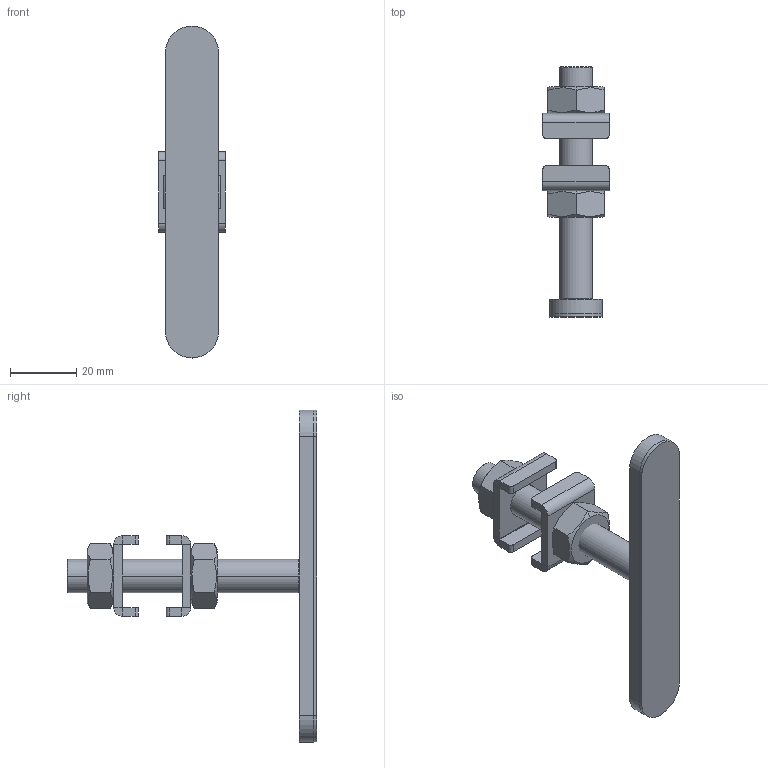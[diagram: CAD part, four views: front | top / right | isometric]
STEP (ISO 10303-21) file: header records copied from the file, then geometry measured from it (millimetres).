
FILE_DESCRIPTION (( 'STEP AP203' ), '1' );
FILE_NAME ('PFA-M10.STEP', '2011-05-24T13:37:54', ( 'Usuario' ), ( '' ), 'SwSTEP 2.0', 'SolidWorks 2011', '' );
FILE_SCHEMA (( 'CONFIG_CONTROL_DESIGN' ));
Length unit declared in the file: millimetre
Products named in the file (6): 20.20019; 20.20021; 20.20020; PFA-M10; 14.10003; 11.50003
Assembly tree (7 placements, depth 2):
  PFA-M10
    20.20021
    14.10003  x2
    11.50003  x2
    20.20020
    20.20019
Bounding box: 20 x 75.25 x 100 mm (x, y, z)
Volume: 19644.6 mm3; surface area: 14694.1 mm2
Topology: 7 solids, 7 shells, 112 faces, 250 edges, 152 vertices
Faces by surface type: plane 62, cylinder 30, cone 20
Entity records: 2592 total; most frequent: CARTESIAN_POINT 432, DIRECTION 336, ORIENTED_EDGE 288, EDGE_CURVE 144, AXIS2_PLACEMENT_3D 128, VERTEX_POINT 88, LINE 80, VECTOR 80
